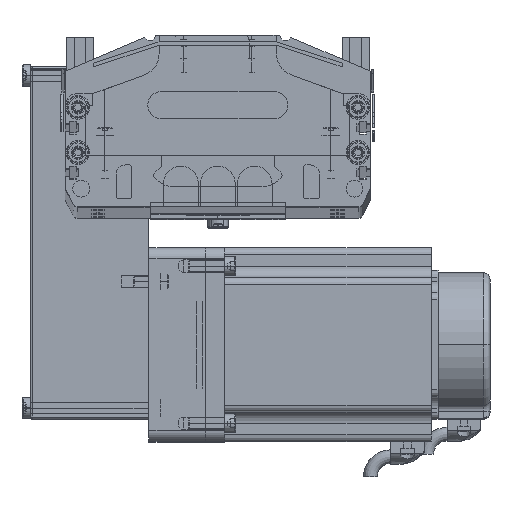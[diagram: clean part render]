
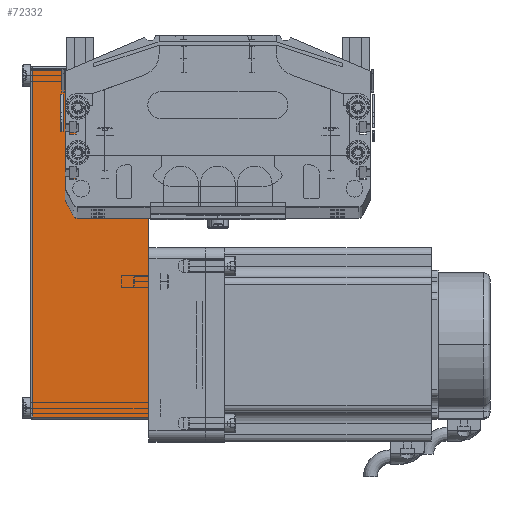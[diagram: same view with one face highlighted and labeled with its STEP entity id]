
A CAD part, top view. The second image highlights one B-rep face of the part: STEP entity #72332.
In plain terms, the highlighted planar face has unit normal (0, 0, 1) as drawn and (0, -1, 0) by its records, which use the part's own axes.
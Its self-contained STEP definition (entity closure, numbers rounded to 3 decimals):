
#7794 = CARTESIAN_POINT ( 'NONE',  ( 31., -40., 0. ) ) ;
#8473 = DIRECTION ( 'NONE',  ( 1., 0., 0. ) ) ;
#8552 = VECTOR ( 'NONE', #8473, 1000. ) ;
#8553 = CARTESIAN_POINT ( 'NONE',  ( 32., -40., 0. ) ) ;
#8554 = LINE ( 'NONE', #8553, #8552 ) ;
#8828 = CARTESIAN_POINT ( 'NONE',  ( -123.2, -40., 0. ) ) ;
#11198 = DIRECTION ( 'NONE',  ( 0., 0., -1. ) ) ;
#11200 = VECTOR ( 'NONE', #11198, 1000. ) ;
#11202 = CARTESIAN_POINT ( 'NONE',  ( -123.2, -40., 52.5 ) ) ;
#11207 = CARTESIAN_POINT ( 'NONE',  ( 31., -40., 51.5 ) ) ;
#11232 = CARTESIAN_POINT ( 'NONE',  ( 31., -40., 52.5 ) ) ;
#11353 = DIRECTION ( 'NONE',  ( 0., 0., 1. ) ) ;
#11354 = VECTOR ( 'NONE', #11353, 1000. ) ;
#11382 = LINE ( 'NONE', #11202, #11200 ) ;
#11385 = CARTESIAN_POINT ( 'NONE',  ( -123.2, -40., 51.5 ) ) ;
#11400 = LINE ( 'NONE', #11232, #11354 ) ;
#11406 = DIRECTION ( 'NONE',  ( -1., 0., 0. ) ) ;
#11407 = VECTOR ( 'NONE', #11406, 1000. ) ;
#11408 = CARTESIAN_POINT ( 'NONE',  ( 32., -40., 51.5 ) ) ;
#11409 = LINE ( 'NONE', #11408, #11407 ) ;
#11997 = CARTESIAN_POINT ( 'NONE',  ( 32., -40., 52.5 ) ) ;
#12013 = FACE_OUTER_BOUND ( 'NONE', #72250, .T. ) ;
#12046 = PLANE ( 'NONE',  #12118 ) ;
#12067 = DIRECTION ( 'NONE',  ( 0., 1., 0. ) ) ;
#12096 = DIRECTION ( 'NONE',  ( -1., 0., 0. ) ) ;
#12118 = AXIS2_PLACEMENT_3D ( 'NONE', #11997, #12067, #12096 ) ;
#71995 = EDGE_CURVE ( 'NONE', #72107, #72102, #8554, .T. ) ;
#72102 = VERTEX_POINT ( 'NONE', #7794 ) ;
#72107 = VERTEX_POINT ( 'NONE', #8828 ) ;
#72228 = VERTEX_POINT ( 'NONE', #11207 ) ;
#72250 = EDGE_LOOP ( 'NONE', ( #72254, #72275, #72331, #72312 ) ) ;
#72251 = EDGE_CURVE ( 'NONE', #72102, #72228, #11400, .T. ) ;
#72254 = ORIENTED_EDGE ( 'NONE', *, *, #71995, .T. ) ;
#72274 = VERTEX_POINT ( 'NONE', #11385 ) ;
#72275 = ORIENTED_EDGE ( 'NONE', *, *, #72251, .T. ) ;
#72276 = EDGE_CURVE ( 'NONE', #72228, #72274, #11409, .T. ) ;
#72277 = EDGE_CURVE ( 'NONE', #72274, #72107, #11382, .T. ) ;
#72312 = ORIENTED_EDGE ( 'NONE', *, *, #72277, .T. ) ;
#72331 = ORIENTED_EDGE ( 'NONE', *, *, #72276, .T. ) ;
#72332 = ADVANCED_FACE ( 'NONE', ( #12013 ), #12046, .F. ) ;
